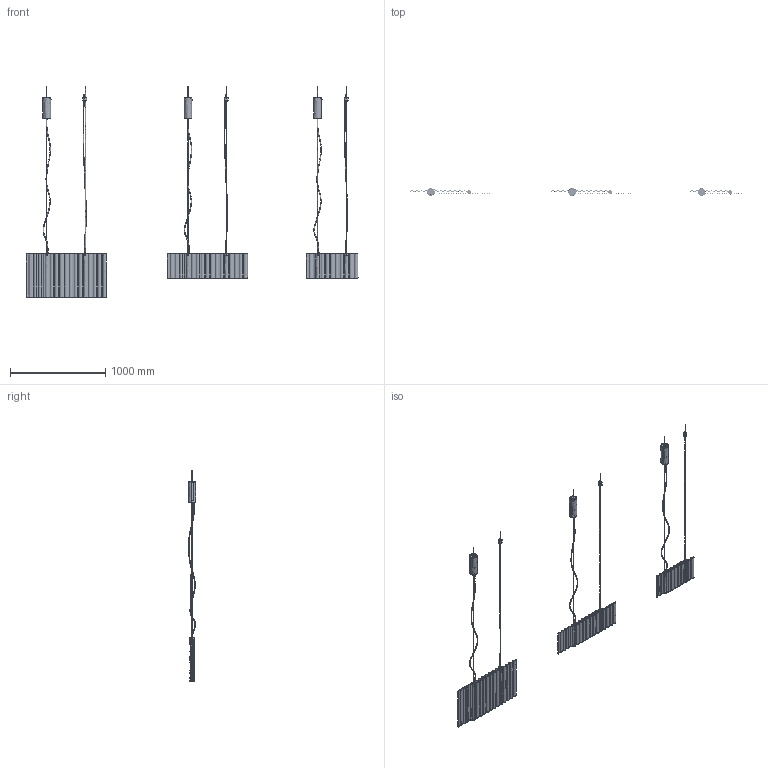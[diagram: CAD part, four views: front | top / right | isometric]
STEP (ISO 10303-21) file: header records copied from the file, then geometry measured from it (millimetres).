
FILE_DESCRIPTION(/* description */ (''),/* implementation_level */ '2;1');
FILE_NAME(/* name */ '3D_SIP~1',/* time_stamp */ '2024-04-30T11:59:16+02:00',/* author */ (''),/* organization */ (''),/* preprocessor_version */ 'ST-DEVELOPER v16.5',/* originating_system */ '',/* authorisation */ '');
FILE_SCHEMA (('AUTOMOTIVE_DESIGN'));
Products named in the file (1): Document
Bounding box: 3478.51 x 80 x 2205.57 mm (x, y, z)
Volume: 9906535.5 mm3; surface area: 3901246.5 mm2
Topology: 110 solids, 114 shells, 2993 faces, 7216 edges, 4441 vertices
Faces by surface type: bspline 2049, plane 944
Entity records: 114326 total; most frequent: CARTESIAN_POINT 70712, ORIENTED_EDGE 14272, EDGE_CURVE 7144, VERTEX_POINT 4441, B_SPLINE_CURVE_WITH_KNOTS 3865, EDGE_LOOP 3331, ADVANCED_FACE 2993, FACE_OUTER_BOUND 2993
